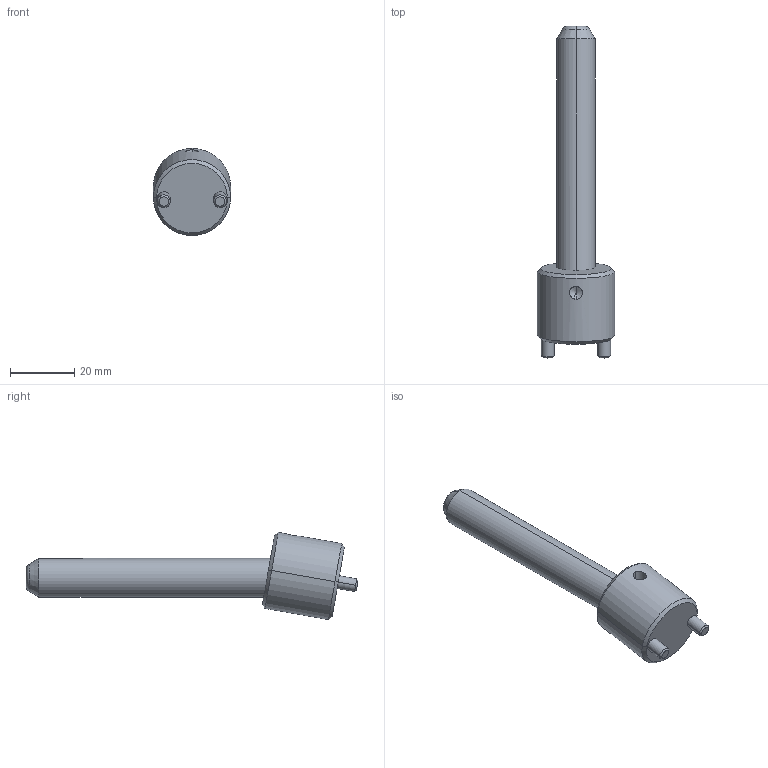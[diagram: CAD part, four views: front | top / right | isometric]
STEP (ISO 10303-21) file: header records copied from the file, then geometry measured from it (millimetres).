
FILE_DESCRIPTION(('CATIA V5 STEP Exchange'),'2;1');
FILE_NAME('C:\Users\Raffaele\Desktop\3D BOLEX\3D FILES CF BOLEX\19-INCLINED ASSEMBLY REF_CI\CI1012075.stp','2019-06-20T14:10:03+00:00',('none'),('none'),'CATIA Version 5 Release 20 GA (IN-10)','CATIA V5 STEP AP203','none');
FILE_SCHEMA(('CONFIG_CONTROL_DESIGN'));
Length unit declared in the file: millimetre
Products named in the file (1): CI1012075
Assembly tree (2 placements, depth 2):
  CI1012075
    #58
    #578
Bounding box: 24 x 103.27 x 27.11 mm (x, y, z)
Volume: 18190.6 mm3; surface area: 7030.4 mm2
Topology: 2 solids, 2 shells, 39 faces, 82 edges, 47 vertices
Faces by surface type: cone 14, cylinder 14, plane 7, torus 4
Entity records: 1467 total; most frequent: CARTESIAN_POINT 608, ORIENTED_EDGE 160, DIRECTION 145, EDGE_CURVE 80, AXIS2_PLACEMENT_3D 72, VERTEX_POINT 47, EDGE_LOOP 43, ADVANCED_FACE 39
